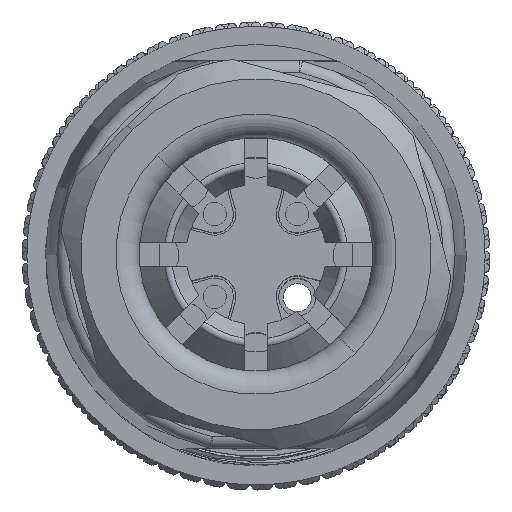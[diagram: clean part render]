
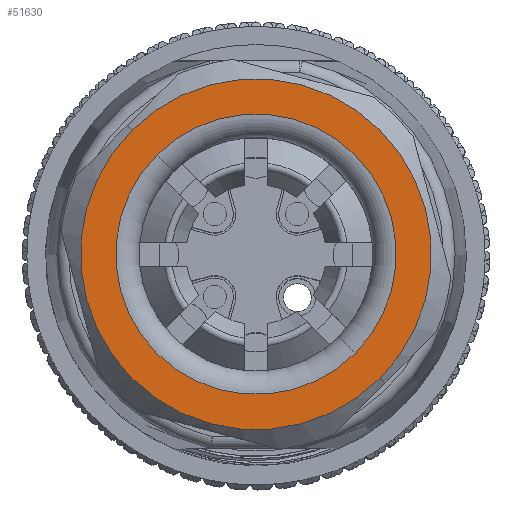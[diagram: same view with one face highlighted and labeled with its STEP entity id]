
A CAD part, top view. The second image highlights one B-rep face of the part: STEP entity #51630.
In plain terms, the highlighted planar face has unit normal (0, 0, 1).
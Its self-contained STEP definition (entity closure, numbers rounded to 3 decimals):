
#15455=CARTESIAN_POINT('',(0.,0.,
38.818));
#15456=DIRECTION('',(0.,0.,-1.));
#15457=DIRECTION('',(0.707,-0.707,0.));
#15458=AXIS2_PLACEMENT_3D('',#15455,#15456,#15457);
#15460=CARTESIAN_POINT('',(0.,0.,
38.818));
#15461=DIRECTION('',(0.,0.,-1.));
#15462=DIRECTION('',(-0.707,0.707,0.));
#15463=AXIS2_PLACEMENT_3D('',#15460,#15461,#15462);
#15465=CARTESIAN_POINT('',(0.,0.,
38.818));
#15466=DIRECTION('',(0.,0.,1.));
#15467=DIRECTION('',(-0.707,0.707,0.));
#15468=AXIS2_PLACEMENT_3D('',#15465,#15466,#15467);
#15470=CARTESIAN_POINT('',(0.,0.,
38.818));
#15471=DIRECTION('',(0.,0.,1.));
#15472=DIRECTION('',(0.707,-0.707,0.));
#15473=AXIS2_PLACEMENT_3D('',#15470,#15471,#15472);
#33849=CARTESIAN_POINT('',(4.243,-4.243,
38.818));
#33850=CARTESIAN_POINT('',(-4.243,4.243,
38.818));
#33851=VERTEX_POINT('',#33849);
#33852=VERTEX_POINT('',#33850);
#33853=CARTESIAN_POINT('',(5.308,-5.308,
38.818));
#33855=VERTEX_POINT('',#33853);
#33857=CARTESIAN_POINT('',(-5.308,5.308,
38.818));
#33859=VERTEX_POINT('',#33857);
#51614=CARTESIAN_POINT('',(0.,0.,
38.818));
#51615=DIRECTION('',(0.,0.,-1.));
#51616=DIRECTION('',(0.707,-0.707,0.));
#51617=AXIS2_PLACEMENT_3D('',#51614,#51615,#51616);
#51618=PLANE('',#51617);
#51620=ORIENTED_EDGE('',*,*,#51619,.F.);
#51621=ORIENTED_EDGE('',*,*,#51593,.F.);
#51622=EDGE_LOOP('',(#51620,#51621));
#51623=FACE_OUTER_BOUND('',#51622,.F.);
#51625=ORIENTED_EDGE('',*,*,#51624,.F.);
#51627=ORIENTED_EDGE('',*,*,#51626,.F.);
#51628=EDGE_LOOP('',(#51625,#51627));
#51629=FACE_BOUND('',#51628,.F.);
#51630=ADVANCED_FACE('',(#51623,#51629),#51618,.F.);
#15459=CIRCLE('',#15458,6.);
#15464=CIRCLE('',#15463,6.);
#15469=CIRCLE('',#15468,7.507);
#15474=CIRCLE('',#15473,7.507);
#51593=EDGE_CURVE('',#33855,#33859,#15474,.T.);
#51619=EDGE_CURVE('',#33859,#33855,#15469,.T.);
#51624=EDGE_CURVE('',#33851,#33852,#15459,.T.);
#51626=EDGE_CURVE('',#33852,#33851,#15464,.T.);
